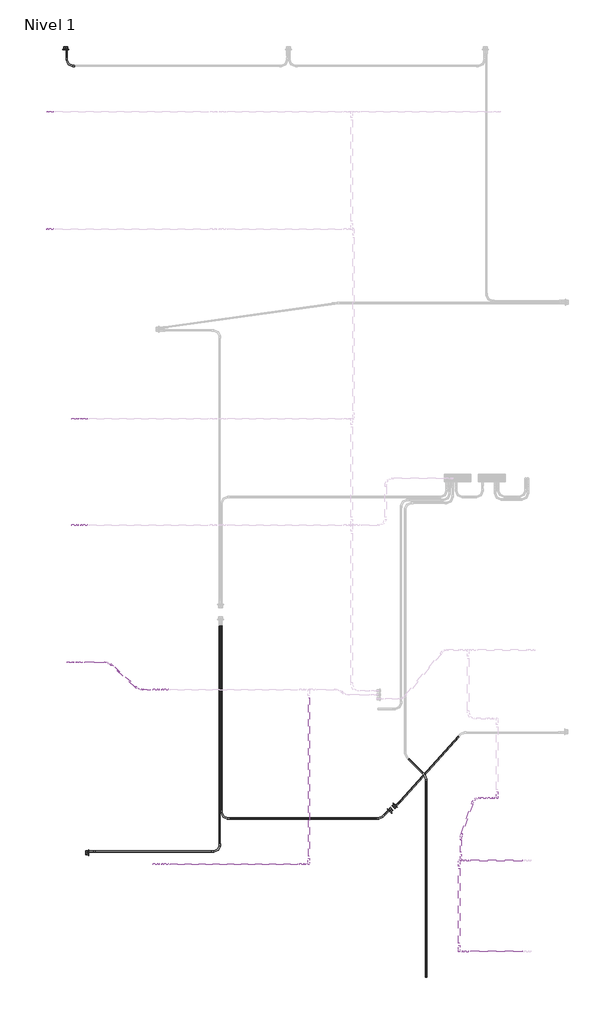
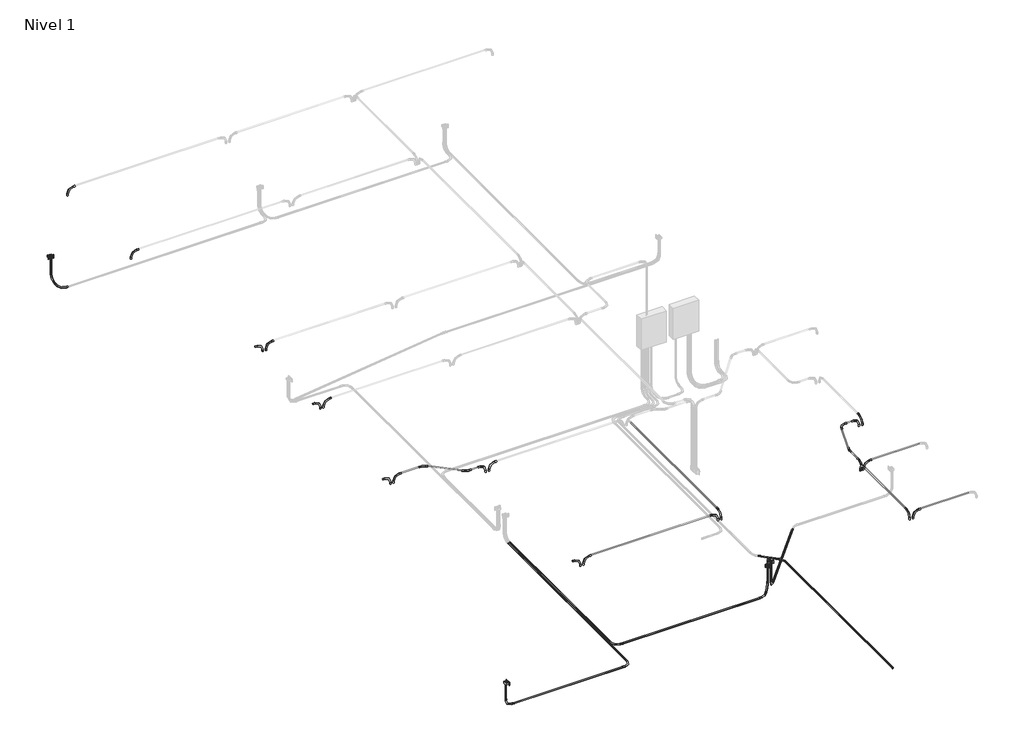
# One storey, part 1 of 4: 34 cable carrier fittings, 24 cable carrier segments, 4 proxies.
"""IFC4 building model written with IfcOpenShell, lengths in millimetres."""

from ifc_helpers import new_model, si_unit, point, frame, frame_2d, origin, place, context, project, spatial, circle_curve, trimmed, segment, composite_curve, outline, extrude, transform, mapped, element, save
from components import gfci_180f1b41, m_codo_de_tubo_extremo_liso_pvc_9da73e12, m_codo_de_tubo_extremo_liso_pvc_b355e40d, m_codo_de_tubo_extremo_liso_pvc_102f0f41, m_codo_de_tubo_extremo_liso_pvc_d0634796, m_codo_de_tubo_extremo_liso_pvc_df1a18ac, m_codo_de_tubo_extremo_liso_pvc_ac3ce41b

model = new_model("IFC4")

# Units and contexts
model_context = context("Model", 3, world=origin())
ifc_project = project(units=[si_unit("LENGTHUNIT", "METRE", prefix="MILLI")], contexts=[model_context])

# Site, building, storey
site = spatial("IfcSite", under=ifc_project)
building = spatial("IfcBuilding", under=site)
storey = spatial("IfcBuildingStorey", under=building, Name="Nivel 1", Elevation=0.0)

# Proxies
placement = place(None, origin())
gfci_shape = gfci_180f1b41(model_context)
element("IfcBuildingElementProxy", 1, Name="Tomacorriente doble 220V : GFCI", ObjectType="Tomacorriente doble 220V : GFCI", at=placement, inside=storey, context=model_context, shape_type="MappedRepresentation", body=[
    mapped(gfci_shape, transform((-295.1409376, 17515.0, 400.0), x_axis=(0.0, 0.0, 1.0), y_axis=(-1.0, 0.0, 0.0), z_axis=(0.0, -1.0, 0.0))),
])
element("IfcBuildingElementProxy", 2, Name="Tomacorriente doble 220V : GFCI", ObjectType="Tomacorriente doble 220V : GFCI", at=placement, inside=storey, context=model_context, shape_type="MappedRepresentation", body=[
    mapped(gfci_shape, transform((135.0, 2328.0418593, 400.0), x_axis=(0.0, 0.0, 1.0), y_axis=(0.0, -1.0, 0.0), z_axis=(1.0, 0.0, 0.0))),
])
element("IfcBuildingElementProxy", 3, Name="Tomacorriente doble 220V : GFCI", ObjectType="Tomacorriente doble 220V : GFCI", at=placement, inside=storey, context=model_context, shape_type="MappedRepresentation", body=[
    mapped(gfci_shape, transform((5835.4780712, 3114.4683264, 400.0), x_axis=(0.0, 0.0, 1.0), y_axis=(-0.707106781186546, 0.7071067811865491, 0.0), z_axis=(-0.7071067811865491, -0.707106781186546, 0.0))),
])
element("IfcBuildingElementProxy", 4, Name="Tomacorriente doble 220V : GFCI", ObjectType="Tomacorriente doble 220V : GFCI", at=placement, inside=storey, context=model_context, shape_type="MappedRepresentation", body=[
    mapped(gfci_shape, transform((5941.5440884, 3220.5343436, 400.0), x_axis=(0.0, 0.0, 1.0), y_axis=(0.707106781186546, -0.7071067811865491, 0.0), z_axis=(0.7071067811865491, 0.707106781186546, 0.0))),
])

# Cable carrier fittings
m_codo_de_tubo_extremo_liso_pvc_shape = m_codo_de_tubo_extremo_liso_pvc_9da73e12(model_context)
element("IfcCableCarrierFitting", 5, ObjectType="M_Codo de tubo - Extremo liso - PVC : CODO POTENCIA", at=placement, inside=storey, context=model_context, shape_type="MappedRepresentation", body=[
    mapped(m_codo_de_tubo_extremo_liso_pvc_shape, transform((5843.6842518, 3148.1753512, -99.99), x_axis=(0.0, 0.0, -1.0), y_axis=(-0.7071067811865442, -0.7071067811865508, 0.0), z_axis=(-0.7071067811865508, 0.7071067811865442, 0.0))),
])
element("IfcCableCarrierFitting", 6, ObjectType="M_Codo de tubo - Extremo liso - PVC : CODO POTENCIA", at=placement, inside=storey, context=model_context, shape_type="MappedRepresentation", body=[
    mapped(m_codo_de_tubo_extremo_liso_pvc_shape, transform((2617.9544069, 2346.0736791, -99.99), x_axis=(1.0, 0.0, 0.0), y_axis=(0.0, 1.0, 0.0), z_axis=(0.0, 0.0, 1.0))),
])
element("IfcCableCarrierFitting", 7, ObjectType="M_Codo de tubo - Extremo liso - PVC : CODO POTENCIA", at=placement, inside=storey, context=model_context, shape_type="MappedRepresentation", body=[
    mapped(m_codo_de_tubo_extremo_liso_pvc_shape, transform((105.3628882, 2346.0736791, -99.99), x_axis=(0.0, 0.0, -1.0), y_axis=(1.0, 0.0, 0.0), z_axis=(0.0, -1.0, 0.0))),
])
element("IfcCableCarrierFitting", 8, ObjectType="M_Codo de tubo - Extremo liso - PVC : CODO POTENCIA", at=placement, inside=storey, context=model_context, shape_type="MappedRepresentation", body=[
    mapped(m_codo_de_tubo_extremo_liso_pvc_shape, transform((2654.0180466, 2971.3986559, -99.99), x_axis=(0.0, -1.0, 0.0), y_axis=(1.0, 0.0, 0.0), z_axis=(0.0, 0.0, 1.0))),
])
element("IfcCableCarrierFitting", 9, ObjectType="M_Codo de tubo - Extremo liso - PVC : CODO POTENCIA", at=placement, inside=storey, context=model_context, shape_type="MappedRepresentation", body=[
    mapped(m_codo_de_tubo_extremo_liso_pvc_shape, transform((-277.1091178, 17544.6371118, -99.99), x_axis=(0.0, 0.0, -1.0), y_axis=(0.0, -1.0, 0.0), z_axis=(-1.0, 0.0, 0.0))),
])
element("IfcCableCarrierFitting", 10, ObjectType="M_Codo de tubo - Extremo liso - PVC : CODO POTENCIA", at=placement, inside=storey, context=model_context, shape_type="MappedRepresentation", body=[
    mapped(m_codo_de_tubo_extremo_liso_pvc_shape, transform((-277.1091178, 17204.6371118, -99.99), x_axis=(0.0, -1.0, 0.0), y_axis=(1.0, 0.0, 0.0), z_axis=(0.0, 0.0, 1.0))),
])
element("IfcCableCarrierFitting", 11, ObjectType="M_Codo de tubo - Extremo liso - PVC : CODO POTENCIA", at=placement, inside=storey, context=model_context, shape_type="MappedRepresentation", body=[
    mapped(m_codo_de_tubo_extremo_liso_pvc_shape, transform((5933.3379077, 3186.8273188, -120.0), x_axis=(0.0, 0.0, -1.0), y_axis=(0.6691306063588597, 0.743144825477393, 0.0), z_axis=(0.743144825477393, -0.6691306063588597, 0.0))),
])
m_codo_de_tubo_extremo_liso_pvc_2_shape = m_codo_de_tubo_extremo_liso_pvc_b355e40d(model_context)
element("IfcCableCarrierFitting", 12, ObjectType="M_Codo de tubo - Extremo liso - PVC : CODO POTENCIA", at=placement, inside=storey, context=model_context, shape_type="MappedRepresentation", body=[
    mapped(m_codo_de_tubo_extremo_liso_pvc_2_shape, transform((5666.9075565, 2971.3986559, -99.99), x_axis=(1.0, 0.0, 0.0), y_axis=(0.0, 1.0, 0.0), z_axis=(0.0, 0.0, 1.0))),
])
element("IfcCableCarrierFitting", 13, ObjectType="M_Codo de tubo - Extremo liso - PVC : CODO POTENCIA", at=placement, inside=storey, context=model_context, shape_type="MappedRepresentation", body=[
    mapped(m_codo_de_tubo_extremo_liso_pvc_2_shape, transform((6525.0690628, 3765.8748094, -99.99), x_axis=(0.0, 1.0, 0.0), y_axis=(-1.0, 0.0, 0.0), z_axis=(0.0, 0.0, 1.0))),
])
element("IfcCableCarrierFitting", 14, ObjectType="M_Codo de tubo - Extremo liso - PVC : CODO ILUMINACION", at=placement, inside=storey, context=model_context, shape_type="MappedRepresentation", body=[
    mapped(m_codo_de_tubo_extremo_liso_pvc_shape, transform((-646.1681856, 16335.5818559, 2700.0), x_axis=(0.0, 0.0, 1.0), y_axis=(1.0, 0.0, 0.0), z_axis=(0.0, 1.0, 0.0))),
])
element("IfcCableCarrierFitting", 15, ObjectType="M_Codo de tubo - Extremo liso - PVC : CODO ILUMINACION", at=placement, inside=storey, context=model_context, shape_type="MappedRepresentation", body=[
    mapped(m_codo_de_tubo_extremo_liso_pvc_shape, transform((-646.1681856, 14115.9664101, 2700.0), x_axis=(0.0, 0.0, 1.0), y_axis=(1.0, 0.0, 0.0), z_axis=(0.0, 1.0, 0.0))),
])
element("IfcCableCarrierFitting", 16, ObjectType="M_Codo de tubo - Extremo liso - PVC : CODO ILUMINACION", at=placement, inside=storey, context=model_context, shape_type="MappedRepresentation", body=[
    mapped(m_codo_de_tubo_extremo_liso_pvc_shape, transform((-0.6811986, 10530.0787918, 2700.0), x_axis=(0.0, 0.0, 1.0), y_axis=(1.0, 0.0, 0.0), z_axis=(0.0, 1.0, 0.0))),
])
element("IfcCableCarrierFitting", 17, ObjectType="M_Codo de tubo - Extremo liso - PVC : CODO ILUMINACION", at=placement, inside=storey, context=model_context, shape_type="MappedRepresentation", body=[
    mapped(m_codo_de_tubo_extremo_liso_pvc_shape, transform((-0.6811986, 8518.256128, 2700.0), x_axis=(0.0, 0.0, 1.0), y_axis=(1.0, 0.0, 0.0), z_axis=(0.0, 1.0, 0.0))),
])
element("IfcCableCarrierFitting", 18, ObjectType="M_Codo de tubo - Extremo liso - PVC : CODO ILUMINACION", at=placement, inside=storey, context=model_context, shape_type="MappedRepresentation", body=[
    mapped(m_codo_de_tubo_extremo_liso_pvc_shape, transform((-87.268716, 5926.6411546, 2700.0), x_axis=(0.0, 0.0, 1.0), y_axis=(1.0, 0.0, 0.0), z_axis=(0.0, 1.0, 0.0))),
])
element("IfcCableCarrierFitting", 19, ObjectType="M_Codo de tubo - Extremo liso - PVC : CODO ILUMINACION", at=placement, inside=storey, context=model_context, shape_type="MappedRepresentation", body=[
    mapped(m_codo_de_tubo_extremo_liso_pvc_shape, transform((1531.3128009, 5408.0026384, 2700.0), x_axis=(0.0, 0.0, 1.0), y_axis=(1.0, 0.0, 0.0), z_axis=(0.0, 1.0, 0.0))),
])
element("IfcCableCarrierFitting", 20, ObjectType="M_Codo de tubo - Extremo liso - PVC : CODO ILUMINACION", at=placement, inside=storey, context=model_context, shape_type="MappedRepresentation", body=[
    mapped(m_codo_de_tubo_extremo_liso_pvc_shape, transform((1531.3128009, 2107.0597224, 2700.0), x_axis=(0.0, 0.0, 1.0), y_axis=(1.0, 0.0, 0.0), z_axis=(0.0, 1.0, 0.0))),
])
element("IfcCableCarrierFitting", 21, ObjectType="M_Codo de tubo - Extremo liso - PVC : CODO ILUMINACION", at=placement, inside=storey, context=model_context, shape_type="MappedRepresentation", body=[
    mapped(m_codo_de_tubo_extremo_liso_pvc_shape, transform((7213.7662632, 459.2645251, 2700.0), x_axis=(0.0, 0.0, 1.0), y_axis=(1.0, 0.0, 0.0), z_axis=(0.0, 1.0, 0.0))),
])
element("IfcCableCarrierFitting", 22, ObjectType="M_Codo de tubo - Extremo liso - PVC : CODO ILUMINACION", at=placement, inside=storey, context=model_context, shape_type="MappedRepresentation", body=[
    mapped(m_codo_de_tubo_extremo_liso_pvc_shape, transform((4306.2053493, 2106.8548558, 2700.0), x_axis=(0.0, 0.0, 1.0), y_axis=(0.0, 1.0, 0.0), z_axis=(-1.0, 0.0, 0.0))),
])
element("IfcCableCarrierFitting", 23, ObjectType="M_Codo de tubo - Extremo liso - PVC : CODO ILUMINACION", at=placement, inside=storey, context=model_context, shape_type="MappedRepresentation", body=[
    mapped(m_codo_de_tubo_extremo_liso_pvc_shape, transform((7213.7662632, 2178.606872, 2700.0), x_axis=(0.0, 0.0, 1.0), y_axis=(1.0, 0.0, 0.0), z_axis=(0.0, 1.0, 0.0))),
])
element("IfcCableCarrierFitting", 24, ObjectType="M_Codo de tubo - Extremo liso - PVC : CODO ILUMINACION", at=placement, inside=storey, context=model_context, shape_type="MappedRepresentation", body=[
    mapped(m_codo_de_tubo_extremo_liso_pvc_shape, transform((7182.0235293, 2178.7465636, 2700.0), x_axis=(0.0, 0.0, 1.0), y_axis=(0.0, 1.0, 0.0), z_axis=(-1.0, 0.0, 0.0))),
])
element("IfcCableCarrierFitting", 25, ObjectType="M_Codo de tubo - Extremo liso - PVC : CODO ILUMINACION", at=placement, inside=storey, context=model_context, shape_type="MappedRepresentation", body=[
    mapped(m_codo_de_tubo_extremo_liso_pvc_shape, transform((7869.7444512, 3360.2823345, 2700.0), x_axis=(0.0, 0.0, 1.0), y_axis=(0.0, 1.0, 0.0), z_axis=(-1.0, 0.0, 0.0))),
])
m_codo_de_tubo_extremo_liso_pvc_3_shape = m_codo_de_tubo_extremo_liso_pvc_102f0f41(model_context)
element("IfcCableCarrierFitting", 26, ObjectType="M_Codo de tubo - Extremo liso - PVC : CODO ILUMINACION", at=placement, inside=storey, context=model_context, shape_type="MappedRepresentation", body=[
    mapped(m_codo_de_tubo_extremo_liso_pvc_3_shape, transform((-64.1666664, 10530.0787918, 2700.0), x_axis=(0.0, 0.0, 1.0), y_axis=(1.0, 0.0, 0.0), z_axis=(0.0, 1.0, 0.0))),
])
element("IfcCableCarrierFitting", 27, ObjectType="M_Codo de tubo - Extremo liso - PVC : CODO ILUMINACION", at=placement, inside=storey, context=model_context, shape_type="MappedRepresentation", body=[
    mapped(m_codo_de_tubo_extremo_liso_pvc_3_shape, transform((-64.1666664, 8518.256128, 2700.0), x_axis=(0.0, 0.0, 1.0), y_axis=(1.0, 0.0, 0.0), z_axis=(0.0, 1.0, 0.0))),
])
element("IfcCableCarrierFitting", 28, ObjectType="M_Codo de tubo - Extremo liso - PVC : CODO ILUMINACION", at=placement, inside=storey, context=model_context, shape_type="MappedRepresentation", body=[
    mapped(m_codo_de_tubo_extremo_liso_pvc_3_shape, transform((-150.7541838, 5926.6411546, 2700.0), x_axis=(0.0, 0.0, 1.0), y_axis=(1.0, 0.0, 0.0), z_axis=(0.0, 1.0, 0.0))),
])
element("IfcCableCarrierFitting", 29, ObjectType="M_Codo de tubo - Extremo liso - PVC : CODO ILUMINACION", at=placement, inside=storey, context=model_context, shape_type="MappedRepresentation", body=[
    mapped(m_codo_de_tubo_extremo_liso_pvc_3_shape, transform((1467.8273331, 5408.0026384, 2700.0), x_axis=(0.0, 0.0, 1.0), y_axis=(1.0, 0.0, 0.0), z_axis=(0.0, 1.0, 0.0))),
])
element("IfcCableCarrierFitting", 30, ObjectType="M_Codo de tubo - Extremo liso - PVC : CODO ILUMINACION", at=placement, inside=storey, context=model_context, shape_type="MappedRepresentation", body=[
    mapped(m_codo_de_tubo_extremo_liso_pvc_3_shape, transform((1467.8273331, 2107.0597224, 2700.0), x_axis=(0.0, 0.0, 1.0), y_axis=(1.0, 0.0, 0.0), z_axis=(0.0, 1.0, 0.0))),
])
element("IfcCableCarrierFitting", 31, ObjectType="M_Codo de tubo - Extremo liso - PVC : CODO ILUMINACION", at=placement, inside=storey, context=model_context, shape_type="MappedRepresentation", body=[
    mapped(m_codo_de_tubo_extremo_liso_pvc_3_shape, transform((4242.2356318, 2107.0597224, 2700.0), x_axis=(0.0, 0.0, 1.0), y_axis=(1.0, 0.0, 0.0), z_axis=(0.0, 1.0, 0.0))),
])
element("IfcCableCarrierFitting", 32, ObjectType="M_Codo de tubo - Extremo liso - PVC : CODO ILUMINACION", at=placement, inside=storey, context=model_context, shape_type="MappedRepresentation", body=[
    mapped(m_codo_de_tubo_extremo_liso_pvc_3_shape, transform((7806.2589834, 3360.2823345, 2700.0), x_axis=(0.0, 0.0, 1.0), y_axis=(1.0, 0.0, 0.0), z_axis=(0.0, 1.0, 0.0))),
])
element("IfcCableCarrierFitting", 33, ObjectType="M_Codo de tubo - Extremo liso - PVC : CODO ILUMINACION", at=placement, inside=storey, context=model_context, shape_type="MappedRepresentation", body=[
    mapped(m_codo_de_tubo_extremo_liso_pvc_3_shape, transform((7150.2807954, 459.2645251, 2700.0), x_axis=(0.0, 0.0, 1.0), y_axis=(0.0, -1.0, 0.0), z_axis=(1.0, 0.0, 0.0))),
])
element("IfcCableCarrierFitting", 34, ObjectType="M_Codo de tubo - Extremo liso - PVC : CODO ILUMINACION", at=placement, inside=storey, context=model_context, shape_type="MappedRepresentation", body=[
    mapped(m_codo_de_tubo_extremo_liso_pvc_3_shape, transform((7150.2807954, 2178.3914812, 2700.0), x_axis=(0.0, 0.0, 1.0), y_axis=(0.0, 1.0, 0.0), z_axis=(-1.0, 0.0, 0.0))),
])
m_codo_de_tubo_extremo_liso_pvc_4_shape = m_codo_de_tubo_extremo_liso_pvc_d0634796(model_context)
element("IfcCableCarrierFitting", 35, ObjectType="M_Codo de tubo - Extremo liso - PVC : CODO ILUMINACION", at=placement, inside=storey, context=model_context, shape_type="MappedRepresentation", body=[
    mapped(m_codo_de_tubo_extremo_liso_pvc_4_shape, transform((1086.8273331, 5408.0026384, 2700.0), x_axis=(0.743144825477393, -0.6691306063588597, 0.0), y_axis=(0.6691306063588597, 0.743144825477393, 0.0), z_axis=(0.0, 0.0, 1.0))),
])
element("IfcCableCarrierFitting", 36, ObjectType="M_Codo de tubo - Extremo liso - PVC : CODO ILUMINACION", at=placement, inside=storey, context=model_context, shape_type="MappedRepresentation", body=[
    mapped(m_codo_de_tubo_extremo_liso_pvc_4_shape, transform((510.8209064, 5926.6411546, 2700.0), x_axis=(-0.7431448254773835, 0.6691306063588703, 0.0), y_axis=(-0.6691306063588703, -0.7431448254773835, 0.0), z_axis=(0.0, 0.0, 1.0))),
])
m_codo_de_tubo_extremo_liso_pvc_5_shape = m_codo_de_tubo_extremo_liso_pvc_df1a18ac(model_context)
element("IfcCableCarrierFitting", 37, ObjectType="M_Codo de tubo - Extremo liso - PVC : CODO ILUMINACION", at=placement, inside=storey, context=model_context, shape_type="MappedRepresentation", body=[
    mapped(m_codo_de_tubo_extremo_liso_pvc_5_shape, transform((7182.0235293, 2631.1465636, 2700.0), x_axis=(-0.3255681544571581, -0.9455185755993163, 0.0), y_axis=(0.9455185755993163, -0.3255681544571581, 0.0), z_axis=(0.0, 0.0, 1.0))),
])
m_codo_de_tubo_extremo_liso_pvc_6_shape = m_codo_de_tubo_extremo_liso_pvc_ac3ce41b(model_context)
element("IfcCableCarrierFitting", 38, ObjectType="M_Codo de tubo - Extremo liso - PVC : CODO ILUMINACION", at=placement, inside=storey, context=model_context, shape_type="MappedRepresentation", body=[
    mapped(m_codo_de_tubo_extremo_liso_pvc_6_shape, transform((7433.085109, 3360.2823345, 2700.0), x_axis=(-1.0, 0.0, 0.0), y_axis=(0.0, -1.0, 0.0), z_axis=(0.0, 0.0, 1.0))),
])

# Cable carrier segments
element("IfcCableCarrierSegment", 39, ObjectType="PVC-SEL, POTENCIA", at=placement, inside=storey, context=model_context, shape_type="SweptSolid", body=[
    extrude(outline(composite_curve([segment(trimmed(circle_curve(frame_2d((0.0, 11.71)), 11.71), [point((11.71, 11.71))], [point((0.0, 0.0))], False, "CARTESIAN"), True, "CONTINUOUS"), segment(trimmed(circle_curve(frame_2d((0.0, 11.71)), 11.71), [point((0.0, 0.0))], [point((-11.71, 11.71))], False, "CARTESIAN"), True, "CONTINUOUS"), segment(trimmed(circle_curve(frame_2d((0.0, 11.71)), 11.71), [point((-11.71, 11.71))], [point((0.0, 23.42))], False, "CARTESIAN"), True, "CONTINUOUS"), segment(trimmed(circle_curve(frame_2d((0.0, 11.71)), 11.71), [point((0.0, 23.42))], [point((11.71, 11.71))], False, "CARTESIAN"), True, "CONTINUOUS")], self_intersect=False)), frame((6035.3134121, 3300.0825902, -108.29), z_axis=(0.6691306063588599, 0.7431448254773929, 0.0), x_axis=(0.7431448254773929, -0.6691306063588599, 0.0)), (0.0, 0.0, 1.0), 1652.6267916),
])
element("IfcCableCarrierSegment", 40, ObjectType="PVC-SEL, POTENCIA", at=placement, inside=storey, context=model_context, shape_type="SweptSolid", body=[
    extrude(outline(composite_curve([segment(trimmed(circle_curve(frame_2d((5933.3379077, 3186.8273188)), 11.71), [point((5945.0479077, 3186.8273188))], [point((5933.3379077, 3175.1173188))], False, "CARTESIAN"), True, "CONTINUOUS"), segment(trimmed(circle_curve(frame_2d((5933.3379077, 3186.8273188)), 11.71), [point((5933.3379077, 3175.1173188))], [point((5921.6279077, 3186.8273188))], False, "CARTESIAN"), True, "CONTINUOUS"), segment(trimmed(circle_curve(frame_2d((5933.3379077, 3186.8273188)), 11.71), [point((5921.6279077, 3186.8273188))], [point((5933.3379077, 3198.5373188))], False, "CARTESIAN"), True, "CONTINUOUS"), segment(trimmed(circle_curve(frame_2d((5933.3379077, 3186.8273188)), 11.71), [point((5933.3379077, 3198.5373188))], [point((5945.0479077, 3186.8273188))], False, "CARTESIAN"), True, "CONTINUOUS")], self_intersect=False)), frame((0.0, 0.0, 32.4), z_axis=(0.0, 0.0, 1.0), x_axis=(1.0, 0.0, 0.0)), (0.0, 0.0, 1.0), 347.3020537),
])
element("IfcCableCarrierSegment", 41, ObjectType="PVC-SEL, POTENCIA", at=placement, inside=storey, context=model_context, shape_type="SweptSolid", body=[
    extrude(outline(composite_curve([segment(trimmed(circle_curve(frame_2d((0.0, -11.71)), 11.71), [point((-11.71, -11.71))], [point((0.0, 0.0))], False, "CARTESIAN"), True, "CONTINUOUS"), segment(trimmed(circle_curve(frame_2d((0.0, -11.71)), 11.71), [point((0.0, 0.0))], [point((11.71, -11.71))], False, "CARTESIAN"), True, "CONTINUOUS"), segment(trimmed(circle_curve(frame_2d((0.0, -11.71)), 11.71), [point((11.71, -11.71))], [point((0.0, -23.42))], False, "CARTESIAN"), True, "CONTINUOUS"), segment(trimmed(circle_curve(frame_2d((0.0, -11.71)), 11.71), [point((0.0, -23.42))], [point((-11.71, -11.71))], False, "CARTESIAN"), True, "CONTINUOUS")], self_intersect=False)), frame((5727.3260198, 3031.8171192, -111.7), z_axis=(0.7071067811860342, 0.7071067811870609, 0.0), x_axis=(0.7071067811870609, -0.7071067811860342, 0.0)), (0.0, 0.0, 1.0), 12.1553898),
])
element("IfcCableCarrierSegment", 42, ObjectType="PVC-SEL, POTENCIA", at=placement, inside=storey, context=model_context, shape_type="SweptSolid", body=[
    extrude(outline(composite_curve([segment(trimmed(circle_curve(frame_2d((5843.6842518, 3148.1753512)), 11.71), [point((5855.3942518, 3148.1753512))], [point((5843.6842518, 3136.4653512))], False, "CARTESIAN"), True, "CONTINUOUS"), segment(trimmed(circle_curve(frame_2d((5843.6842518, 3148.1753512)), 11.71), [point((5843.6842518, 3136.4653512))], [point((5831.9742518, 3148.1753512))], False, "CARTESIAN"), True, "CONTINUOUS"), segment(trimmed(circle_curve(frame_2d((5843.6842518, 3148.1753512)), 11.71), [point((5831.9742518, 3148.1753512))], [point((5843.6842518, 3159.8853512))], False, "CARTESIAN"), True, "CONTINUOUS"), segment(trimmed(circle_curve(frame_2d((5843.6842518, 3148.1753512)), 11.71), [point((5843.6842518, 3159.8853512))], [point((5855.3942518, 3148.1753512))], False, "CARTESIAN"), True, "CONTINUOUS")], self_intersect=False)), frame((0.0, 0.0, 52.41), z_axis=(0.0, 0.0, 1.0), x_axis=(1.0, 0.0, 0.0)), (0.0, 0.0, 1.0), 327.2920537),
])
element("IfcCableCarrierSegment", 43, ObjectType="PVC-SEL, POTENCIA", at=placement, inside=storey, context=model_context, shape_type="SweptSolid", body=[
    extrude(outline(composite_curve([segment(trimmed(circle_curve(frame_2d((-99.99, 2654.0180466)), 11.71), [point((-99.99, 2642.3080466))], [point((-111.7, 2654.0180466))], False, "CARTESIAN"), True, "CONTINUOUS"), segment(trimmed(circle_curve(frame_2d((-99.99, 2654.0180466)), 11.71), [point((-111.7, 2654.0180466))], [point((-99.99, 2665.7280466))], False, "CARTESIAN"), True, "CONTINUOUS"), segment(trimmed(circle_curve(frame_2d((-99.99, 2654.0180466)), 11.71), [point((-99.99, 2665.7280466))], [point((-88.28, 2654.0180466))], False, "CARTESIAN"), True, "CONTINUOUS"), segment(trimmed(circle_curve(frame_2d((-99.99, 2654.0180466)), 11.71), [point((-88.28, 2654.0180466))], [point((-99.99, 2642.3080466))], False, "CARTESIAN"), True, "CONTINUOUS")], self_intersect=False)), frame((0.0, 3123.7986559, 0.0), z_axis=(0.0, 1.0, 0.0), x_axis=(0.0, 0.0, 1.0)), (0.0, 0.0, 1.0), 3488.4384559),
])
element("IfcCableCarrierSegment", 44, ObjectType="PVC-SEL, POTENCIA", at=placement, inside=storey, context=model_context, shape_type="SweptSolid", body=[
    extrude(outline(composite_curve([segment(trimmed(circle_curve(frame_2d((-99.99, 2617.9544069)), 11.71), [point((-99.99, 2606.2444069))], [point((-111.7, 2617.9544069))], False, "CARTESIAN"), True, "CONTINUOUS"), segment(trimmed(circle_curve(frame_2d((-99.99, 2617.9544069)), 11.71), [point((-111.7, 2617.9544069))], [point((-99.99, 2629.6644069))], False, "CARTESIAN"), True, "CONTINUOUS"), segment(trimmed(circle_curve(frame_2d((-99.99, 2617.9544069)), 11.71), [point((-99.99, 2629.6644069))], [point((-88.28, 2617.9544069))], False, "CARTESIAN"), True, "CONTINUOUS"), segment(trimmed(circle_curve(frame_2d((-99.99, 2617.9544069)), 11.71), [point((-88.28, 2617.9544069))], [point((-99.99, 2606.2444069))], False, "CARTESIAN"), True, "CONTINUOUS")], self_intersect=False)), frame((0.0, 2498.4736791, 0.0), z_axis=(0.0, 1.0, 0.0), x_axis=(0.0, 0.0, 1.0)), (0.0, 0.0, 1.0), 4113.7634327),
])
element("IfcCableCarrierSegment", 45, ObjectType="PVC-SEL, POTENCIA", at=placement, inside=storey, context=model_context, shape_type="SweptSolid", body=[
    extrude(outline(composite_curve([segment(trimmed(circle_curve(frame_2d((2346.0736791, -99.99)), 11.71), [point((2357.7836791, -99.99))], [point((2346.0736791, -111.7))], False, "CARTESIAN"), True, "CONTINUOUS"), segment(trimmed(circle_curve(frame_2d((2346.0736791, -99.99)), 11.71), [point((2346.0736791, -111.7))], [point((2334.3636791, -99.99))], False, "CARTESIAN"), True, "CONTINUOUS"), segment(trimmed(circle_curve(frame_2d((2346.0736791, -99.99)), 11.71), [point((2334.3636791, -99.99))], [point((2346.0736791, -88.28))], False, "CARTESIAN"), True, "CONTINUOUS"), segment(trimmed(circle_curve(frame_2d((2346.0736791, -99.99)), 11.71), [point((2346.0736791, -88.28))], [point((2357.7836791, -99.99))], False, "CARTESIAN"), True, "CONTINUOUS")], self_intersect=False)), frame((257.7628882, 0.0, 0.0), z_axis=(1.0, 0.0, 0.0), x_axis=(0.0, 1.0, 0.0)), (0.0, 0.0, 1.0), 2207.7915187),
])
element("IfcCableCarrierSegment", 46, ObjectType="PVC-SEL, POTENCIA", at=placement, inside=storey, context=model_context, shape_type="SweptSolid", body=[
    extrude(outline(composite_curve([segment(trimmed(circle_curve(frame_2d((105.3628882, 2346.0736791)), 11.71), [point((117.0728882, 2346.0736791))], [point((105.3628882, 2334.3636791))], False, "CARTESIAN"), True, "CONTINUOUS"), segment(trimmed(circle_curve(frame_2d((105.3628882, 2346.0736791)), 11.71), [point((105.3628882, 2334.3636791))], [point((93.6528882, 2346.0736791))], False, "CARTESIAN"), True, "CONTINUOUS"), segment(trimmed(circle_curve(frame_2d((105.3628882, 2346.0736791)), 11.71), [point((93.6528882, 2346.0736791))], [point((105.3628882, 2357.7836791))], False, "CARTESIAN"), True, "CONTINUOUS"), segment(trimmed(circle_curve(frame_2d((105.3628882, 2346.0736791)), 11.71), [point((105.3628882, 2357.7836791))], [point((117.0728882, 2346.0736791))], False, "CARTESIAN"), True, "CONTINUOUS")], self_intersect=False)), frame((0.0, 0.0, 52.41), z_axis=(0.0, 0.0, 1.0), x_axis=(1.0, 0.0, 0.0)), (0.0, 0.0, 1.0), 327.2920537),
])
element("IfcCableCarrierSegment", 47, ObjectType="PVC-SEL, POTENCIA", at=placement, inside=storey, context=model_context, shape_type="SweptSolid", body=[
    extrude(outline(composite_curve([segment(trimmed(circle_curve(frame_2d((2971.3986559, -99.99)), 11.71), [point((2959.6886559, -99.99))], [point((2971.3986559, -88.28))], False, "CARTESIAN"), True, "CONTINUOUS"), segment(trimmed(circle_curve(frame_2d((2971.3986559, -99.99)), 11.71), [point((2971.3986559, -88.28))], [point((2983.1086559, -99.99))], False, "CARTESIAN"), True, "CONTINUOUS"), segment(trimmed(circle_curve(frame_2d((2971.3986559, -99.99)), 11.71), [point((2983.1086559, -99.99))], [point((2971.3986559, -111.7))], False, "CARTESIAN"), True, "CONTINUOUS"), segment(trimmed(circle_curve(frame_2d((2971.3986559, -99.99)), 11.71), [point((2971.3986559, -111.7))], [point((2959.6886559, -99.99))], False, "CARTESIAN"), True, "CONTINUOUS")], self_intersect=False)), frame((2806.4180466, 0.0, 0.0), z_axis=(1.0, 0.0, 0.0), x_axis=(0.0, 1.0, 0.0)), (0.0, 0.0, 1.0), 2775.0448998),
])
element("IfcCableCarrierSegment", 48, ObjectType="PVC-SEL, POTENCIA", at=placement, inside=storey, context=model_context, shape_type="SweptSolid", body=[
    extrude(outline(composite_curve([segment(trimmed(circle_curve(frame_2d((-99.99, -277.1091178)), 11.71), [point((-99.99, -288.8191178))], [point((-111.7, -277.1091178))], False, "CARTESIAN"), True, "CONTINUOUS"), segment(trimmed(circle_curve(frame_2d((-99.99, -277.1091178)), 11.71), [point((-111.7, -277.1091178))], [point((-99.99, -265.3991178))], False, "CARTESIAN"), True, "CONTINUOUS"), segment(trimmed(circle_curve(frame_2d((-99.99, -277.1091178)), 11.71), [point((-99.99, -265.3991178))], [point((-88.28, -277.1091178))], False, "CARTESIAN"), True, "CONTINUOUS"), segment(trimmed(circle_curve(frame_2d((-99.99, -277.1091178)), 11.71), [point((-88.28, -277.1091178))], [point((-99.99, -288.8191178))], False, "CARTESIAN"), True, "CONTINUOUS")], self_intersect=False)), frame((0.0, 17357.0371118, 0.0), z_axis=(0.0, 1.0, 0.0), x_axis=(0.0, 0.0, 1.0)), (0.0, 0.0, 1.0), 35.2),
])
element("IfcCableCarrierSegment", 49, ObjectType="PVC-SEL, POTENCIA", at=placement, inside=storey, context=model_context, shape_type="SweptSolid", body=[
    extrude(outline(composite_curve([segment(trimmed(circle_curve(frame_2d((-277.1091178, 17544.6371118)), 11.71), [point((-265.3991178, 17544.6371118))], [point((-277.1091178, 17532.9271118))], False, "CARTESIAN"), True, "CONTINUOUS"), segment(trimmed(circle_curve(frame_2d((-277.1091178, 17544.6371118)), 11.71), [point((-277.1091178, 17532.9271118))], [point((-288.8191178, 17544.6371118))], False, "CARTESIAN"), True, "CONTINUOUS"), segment(trimmed(circle_curve(frame_2d((-277.1091178, 17544.6371118)), 11.71), [point((-288.8191178, 17544.6371118))], [point((-277.1091178, 17556.3471118))], False, "CARTESIAN"), True, "CONTINUOUS"), segment(trimmed(circle_curve(frame_2d((-277.1091178, 17544.6371118)), 11.71), [point((-277.1091178, 17556.3471118))], [point((-265.3991178, 17544.6371118))], False, "CARTESIAN"), True, "CONTINUOUS")], self_intersect=False)), frame((0.0, 0.0, 52.41), z_axis=(0.0, 0.0, 1.0), x_axis=(1.0, 0.0, 0.0)), (0.0, 0.0, 1.0), 327.2920537),
])
element("IfcCableCarrierSegment", 50, ObjectType="PVC-SEL, POTENCIA", at=placement, inside=storey, context=model_context, shape_type="SweptSolid", body=[
    extrude(outline(composite_curve([segment(trimmed(circle_curve(frame_2d((0.0, -11.71)), 11.71), [point((-11.71, -11.71))], [point((0.0, 0.0))], False, "CARTESIAN"), True, "CONTINUOUS"), segment(trimmed(circle_curve(frame_2d((0.0, -11.71)), 11.71), [point((0.0, 0.0))], [point((11.71, -11.71))], False, "CARTESIAN"), True, "CONTINUOUS"), segment(trimmed(circle_curve(frame_2d((0.0, -11.71)), 11.71), [point((11.71, -11.71))], [point((0.0, -23.42))], False, "CARTESIAN"), True, "CONTINUOUS"), segment(trimmed(circle_curve(frame_2d((0.0, -11.71)), 11.71), [point((0.0, -23.42))], [point((-11.71, -11.71))], False, "CARTESIAN"), True, "CONTINUOUS")], self_intersect=False)), frame((6464.6505995, 3826.2932727, -111.7), z_axis=(-0.707106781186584, 0.7071067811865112, 0.0), x_axis=(0.7071067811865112, 0.707106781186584, 0.0)), (0.0, 0.0, 1.0), 387.6894234),
])
element("IfcCableCarrierSegment", 51, ObjectType="PVC-SEL, POTENCIA", at=placement, inside=storey, context=model_context, shape_type="SweptSolid", body=[
    extrude(outline(composite_curve([segment(trimmed(circle_curve(frame_2d((-99.99, 6525.0690628)), 11.71), [point((-99.99, 6513.3590628))], [point((-111.7, 6525.0690628))], False, "CARTESIAN"), True, "CONTINUOUS"), segment(trimmed(circle_curve(frame_2d((-99.99, 6525.0690628)), 11.71), [point((-111.7, 6525.0690628))], [point((-99.99, 6536.7790628))], False, "CARTESIAN"), True, "CONTINUOUS"), segment(trimmed(circle_curve(frame_2d((-99.99, 6525.0690628)), 11.71), [point((-99.99, 6536.7790628))], [point((-88.28, 6525.0690628))], False, "CARTESIAN"), True, "CONTINUOUS"), segment(trimmed(circle_curve(frame_2d((-99.99, 6525.0690628)), 11.71), [point((-88.28, 6525.0690628))], [point((-99.99, 6513.3590628))], False, "CARTESIAN"), True, "CONTINUOUS")], self_intersect=False)), frame((0.0, -34.1251906, 0.0), z_axis=(0.0, 1.0, 0.0), x_axis=(0.0, 0.0, 1.0)), (0.0, 0.0, 1.0), 3714.5553898),
])
element("IfcCableCarrierSegment", 52, ObjectType="PVC-SEL ILUMINACION", at=placement, inside=storey, context=model_context, shape_type="SweptSolid", body=[
    extrude(outline(composite_curve([segment(trimmed(circle_curve(frame_2d((0.0, 11.71)), 11.71), [point((11.71, 11.71))], [point((0.0, 0.0))], False, "CARTESIAN"), True, "CONTINUOUS"), segment(trimmed(circle_curve(frame_2d((0.0, 11.71)), 11.71), [point((0.0, 0.0))], [point((-11.71, 11.71))], False, "CARTESIAN"), True, "CONTINUOUS"), segment(trimmed(circle_curve(frame_2d((0.0, 11.71)), 11.71), [point((-11.71, 11.71))], [point((0.0, 23.42))], False, "CARTESIAN"), True, "CONTINUOUS"), segment(trimmed(circle_curve(frame_2d((0.0, 11.71)), 11.71), [point((0.0, 23.42))], [point((11.71, 11.71))], False, "CARTESIAN"), True, "CONTINUOUS")], self_intersect=False)), frame((1025.9075461, 5462.855061, 2711.71), z_axis=(-0.7431448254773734, 0.6691306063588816, 0.0), x_axis=(0.6691306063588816, 0.7431448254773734, 0.0)), (0.0, 0.0, 1.0), 611.1417818),
])
element("IfcCableCarrierSegment", 53, ObjectType="PVC-SEL ILUMINACION", at=placement, inside=storey, context=model_context, shape_type="SweptSolid", body=[
    extrude(outline(composite_curve([segment(trimmed(circle_curve(frame_2d((5926.6411546, 2700.0)), 11.71), [point((5938.3511546, 2700.0))], [point((5926.6411546, 2688.29))], False, "CARTESIAN"), True, "CONTINUOUS"), segment(trimmed(circle_curve(frame_2d((5926.6411546, 2700.0)), 11.71), [point((5926.6411546, 2688.29))], [point((5914.9311546, 2700.0))], False, "CARTESIAN"), True, "CONTINUOUS"), segment(trimmed(circle_curve(frame_2d((5926.6411546, 2700.0)), 11.71), [point((5914.9311546, 2700.0))], [point((5926.6411546, 2711.71))], False, "CARTESIAN"), True, "CONTINUOUS"), segment(trimmed(circle_curve(frame_2d((5926.6411546, 2700.0)), 11.71), [point((5926.6411546, 2711.71))], [point((5938.3511546, 2700.0))], False, "CARTESIAN"), True, "CONTINUOUS")], self_intersect=False)), frame((65.131284, 0.0, 0.0), z_axis=(1.0, 0.0, 0.0), x_axis=(0.0, 1.0, 0.0)), (0.0, 0.0, 1.0), 363.7139632),
])
element("IfcCableCarrierSegment", 54, ObjectType="PVC-SEL ILUMINACION", at=placement, inside=storey, context=model_context, shape_type="SweptSolid", body=[
    extrude(outline(composite_curve([segment(trimmed(circle_curve(frame_2d((5408.0026384, 2700.0)), 11.71), [point((5419.7126384, 2700.0))], [point((5408.0026384, 2688.29))], False, "CARTESIAN"), True, "CONTINUOUS"), segment(trimmed(circle_curve(frame_2d((5408.0026384, 2700.0)), 11.71), [point((5408.0026384, 2688.29))], [point((5396.2926384, 2700.0))], False, "CARTESIAN"), True, "CONTINUOUS"), segment(trimmed(circle_curve(frame_2d((5408.0026384, 2700.0)), 11.71), [point((5396.2926384, 2700.0))], [point((5408.0026384, 2711.71))], False, "CARTESIAN"), True, "CONTINUOUS"), segment(trimmed(circle_curve(frame_2d((5408.0026384, 2700.0)), 11.71), [point((5408.0026384, 2711.71))], [point((5419.7126384, 2700.0))], False, "CARTESIAN"), True, "CONTINUOUS")], self_intersect=False)), frame((1168.8029923, 0.0, 0.0), z_axis=(1.0, 0.0, 0.0), x_axis=(0.0, 1.0, 0.0)), (0.0, 0.0, 1.0), 146.6243408),
])
element("IfcCableCarrierSegment", 55, ObjectType="PVC-SEL ILUMINACION", at=placement, inside=storey, context=model_context, shape_type="SweptSolid", body=[
    extrude(outline(composite_curve([segment(trimmed(circle_curve(frame_2d((2107.0597224, 2700.0)), 11.71), [point((2118.7697224, 2700.0))], [point((2107.0597224, 2688.29))], False, "CARTESIAN"), True, "CONTINUOUS"), segment(trimmed(circle_curve(frame_2d((2107.0597224, 2700.0)), 11.71), [point((2107.0597224, 2688.29))], [point((2095.3497224, 2700.0))], False, "CARTESIAN"), True, "CONTINUOUS"), segment(trimmed(circle_curve(frame_2d((2107.0597224, 2700.0)), 11.71), [point((2095.3497224, 2700.0))], [point((2107.0597224, 2711.71))], False, "CARTESIAN"), True, "CONTINUOUS"), segment(trimmed(circle_curve(frame_2d((2107.0597224, 2700.0)), 11.71), [point((2107.0597224, 2711.71))], [point((2118.7697224, 2700.0))], False, "CARTESIAN"), True, "CONTINUOUS")], self_intersect=False)), frame((1683.7128009, 0.0, 0.0), z_axis=(1.0, 0.0, 0.0), x_axis=(0.0, 1.0, 0.0)), (0.0, 0.0, 1.0), 2406.1228309),
])
element("IfcCableCarrierSegment", 56, ObjectType="PVC-SEL ILUMINACION", at=placement, inside=storey, context=model_context, shape_type="SweptSolid", body=[
    extrude(outline(composite_curve([segment(trimmed(circle_curve(frame_2d((2700.0, 4306.2053493)), 11.71), [point((2700.0, 4294.4953493))], [point((2688.29, 4306.2053493))], False, "CARTESIAN"), True, "CONTINUOUS"), segment(trimmed(circle_curve(frame_2d((2700.0, 4306.2053493)), 11.71), [point((2688.29, 4306.2053493))], [point((2700.0, 4317.9153493))], False, "CARTESIAN"), True, "CONTINUOUS"), segment(trimmed(circle_curve(frame_2d((2700.0, 4306.2053493)), 11.71), [point((2700.0, 4317.9153493))], [point((2711.71, 4306.2053493))], False, "CARTESIAN"), True, "CONTINUOUS"), segment(trimmed(circle_curve(frame_2d((2700.0, 4306.2053493)), 11.71), [point((2711.71, 4306.2053493))], [point((2700.0, 4294.4953493))], False, "CARTESIAN"), True, "CONTINUOUS")], self_intersect=False)), frame((0.0, 2259.2548558, 0.0), z_axis=(0.0, 1.0, 0.0), x_axis=(0.0, 0.0, 1.0)), (0.0, 0.0, 1.0), 2996.6073205),
])
element("IfcCableCarrierSegment", 57, ObjectType="PVC-SEL ILUMINACION", at=placement, inside=storey, context=model_context, shape_type="SweptSolid", body=[
    extrude(outline(composite_curve([segment(trimmed(circle_curve(frame_2d((459.2645251, 2700.0)), 11.71), [point((470.9745251, 2700.0))], [point((459.2645251, 2688.29))], False, "CARTESIAN"), True, "CONTINUOUS"), segment(trimmed(circle_curve(frame_2d((459.2645251, 2700.0)), 11.71), [point((459.2645251, 2688.29))], [point((447.5545251, 2700.0))], False, "CARTESIAN"), True, "CONTINUOUS"), segment(trimmed(circle_curve(frame_2d((459.2645251, 2700.0)), 11.71), [point((447.5545251, 2700.0))], [point((459.2645251, 2711.71))], False, "CARTESIAN"), True, "CONTINUOUS"), segment(trimmed(circle_curve(frame_2d((459.2645251, 2700.0)), 11.71), [point((459.2645251, 2711.71))], [point((470.9745251, 2700.0))], False, "CARTESIAN"), True, "CONTINUOUS")], self_intersect=False)), frame((7366.1662632, 0.0, 0.0), z_axis=(1.0, 0.0, 0.0), x_axis=(0.0, 1.0, 0.0)), (0.0, 0.0, 1.0), 974.6178329),
])
element("IfcCableCarrierSegment", 58, ObjectType="PVC-SEL ILUMINACION", at=placement, inside=storey, context=model_context, shape_type="SweptSolid", body=[
    extrude(outline(composite_curve([segment(trimmed(circle_curve(frame_2d((2700.0, 7150.2807954)), 11.71), [point((2700.0, 7161.9907954))], [point((2711.71, 7150.2807954))], False, "CARTESIAN"), True, "CONTINUOUS"), segment(trimmed(circle_curve(frame_2d((2700.0, 7150.2807954)), 11.71), [point((2711.71, 7150.2807954))], [point((2700.0, 7138.5707954))], False, "CARTESIAN"), True, "CONTINUOUS"), segment(trimmed(circle_curve(frame_2d((2700.0, 7150.2807954)), 11.71), [point((2700.0, 7138.5707954))], [point((2688.29, 7150.2807954))], False, "CARTESIAN"), True, "CONTINUOUS"), segment(trimmed(circle_curve(frame_2d((2700.0, 7150.2807954)), 11.71), [point((2688.29, 7150.2807954))], [point((2700.0, 7161.9907954))], False, "CARTESIAN"), True, "CONTINUOUS")], self_intersect=False)), frame((0.0, 611.6645251, 0.0), z_axis=(0.0, 1.0, 0.0), x_axis=(0.0, 0.0, 1.0)), (0.0, 0.0, 1.0), 1414.3269562),
])
element("IfcCableCarrierSegment", 59, ObjectType="PVC-SEL ILUMINACION", at=placement, inside=storey, context=model_context, shape_type="SweptSolid", body=[
    extrude(outline(composite_curve([segment(trimmed(circle_curve(frame_2d((2178.606872, 2700.0)), 11.71), [point((2190.316872, 2700.0))], [point((2178.606872, 2688.29))], False, "CARTESIAN"), True, "CONTINUOUS"), segment(trimmed(circle_curve(frame_2d((2178.606872, 2700.0)), 11.71), [point((2178.606872, 2688.29))], [point((2166.896872, 2700.0))], False, "CARTESIAN"), True, "CONTINUOUS"), segment(trimmed(circle_curve(frame_2d((2178.606872, 2700.0)), 11.71), [point((2166.896872, 2700.0))], [point((2178.606872, 2711.71))], False, "CARTESIAN"), True, "CONTINUOUS"), segment(trimmed(circle_curve(frame_2d((2178.606872, 2700.0)), 11.71), [point((2178.606872, 2711.71))], [point((2190.316872, 2700.0))], False, "CARTESIAN"), True, "CONTINUOUS")], self_intersect=False)), frame((7366.1662632, 0.0, 0.0), z_axis=(1.0, 0.0, 0.0), x_axis=(0.0, 1.0, 0.0)), (0.0, 0.0, 1.0), 974.6178329),
])
element("IfcCableCarrierSegment", 60, ObjectType="PVC-SEL ILUMINACION", at=placement, inside=storey, context=model_context, shape_type="SweptSolid", body=[
    extrude(outline(composite_curve([segment(trimmed(circle_curve(frame_2d((2700.0, 7182.0235293)), 11.71), [point((2700.0, 7193.7335293))], [point((2711.71, 7182.0235293))], False, "CARTESIAN"), True, "CONTINUOUS"), segment(trimmed(circle_curve(frame_2d((2700.0, 7182.0235293)), 11.71), [point((2711.71, 7182.0235293))], [point((2700.0, 7170.3135293))], False, "CARTESIAN"), True, "CONTINUOUS"), segment(trimmed(circle_curve(frame_2d((2700.0, 7182.0235293)), 11.71), [point((2700.0, 7170.3135293))], [point((2688.29, 7182.0235293))], False, "CARTESIAN"), True, "CONTINUOUS"), segment(trimmed(circle_curve(frame_2d((2700.0, 7182.0235293)), 11.71), [point((2688.29, 7182.0235293))], [point((2700.0, 7193.7335293))], False, "CARTESIAN"), True, "CONTINUOUS")], self_intersect=False)), frame((0.0, 2331.1465636, 0.0), z_axis=(0.0, 1.0, 0.0), x_axis=(0.0, 0.0, 1.0)), (0.0, 0.0, 1.0), 242.7727398),
])
element("IfcCableCarrierSegment", 61, ObjectType="PVC-SEL ILUMINACION", at=placement, inside=storey, context=model_context, shape_type="SweptSolid", body=[
    extrude(outline(composite_curve([segment(trimmed(circle_curve(frame_2d((0.0, -11.71)), 11.71), [point((-11.7100001, -11.71))], [point((0.0, 0.0))], False, "CARTESIAN"), True, "CONTINUOUS"), segment(trimmed(circle_curve(frame_2d((0.0, -11.71)), 11.71), [point((0.0, 0.0))], [point((11.71, -11.71))], False, "CARTESIAN"), True, "CONTINUOUS"), segment(trimmed(circle_curve(frame_2d((0.0, -11.71)), 11.71), [point((11.71, -11.71))], [point((0.0, -23.42))], False, "CARTESIAN"), True, "CONTINUOUS"), segment(trimmed(circle_curve(frame_2d((0.0, -11.71)), 11.71), [point((0.0, -23.42))], [point((-11.7100001, -11.71))], False, "CARTESIAN"), True, "CONTINUOUS")], self_intersect=False)), frame((7200.6549028, 2685.2560012, 2688.29), z_axis=(0.32556815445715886, 0.9455185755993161, 0.0), x_axis=(0.9455185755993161, -0.32556815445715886, 0.0)), (0.0, 0.0, 1.0), 594.2924128),
])
element("IfcCableCarrierSegment", 62, ObjectType="PVC-SEL ILUMINACION", at=placement, inside=storey, context=model_context, shape_type="SweptSolid", body=[
    extrude(outline(composite_curve([segment(trimmed(circle_curve(frame_2d((3360.2823345, 2700.0)), 11.71), [point((3371.9923345, 2700.0))], [point((3360.2823345, 2688.29))], False, "CARTESIAN"), True, "CONTINUOUS"), segment(trimmed(circle_curve(frame_2d((3360.2823345, 2700.0)), 11.71), [point((3360.2823345, 2688.29))], [point((3348.5723345, 2700.0))], False, "CARTESIAN"), True, "CONTINUOUS"), segment(trimmed(circle_curve(frame_2d((3360.2823345, 2700.0)), 11.71), [point((3348.5723345, 2700.0))], [point((3360.2823345, 2711.71))], False, "CARTESIAN"), True, "CONTINUOUS"), segment(trimmed(circle_curve(frame_2d((3360.2823345, 2700.0)), 11.71), [point((3360.2823345, 2711.71))], [point((3371.9923345, 2700.0))], False, "CARTESIAN"), True, "CONTINUOUS")], self_intersect=False)), frame((7552.7145067, 0.0, 0.0), z_axis=(1.0, 0.0, 0.0), x_axis=(0.0, 1.0, 0.0)), (0.0, 0.0, 1.0), 101.1444767),
])

save(model, "model.ifc")
